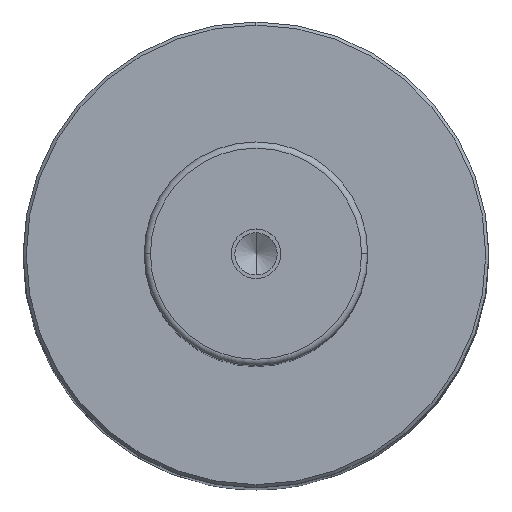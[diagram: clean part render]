
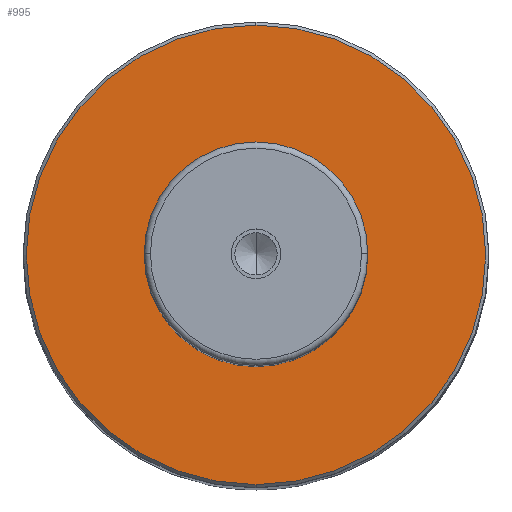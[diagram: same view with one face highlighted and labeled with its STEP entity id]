
A CAD part, top view. The second image highlights one B-rep face of the part: STEP entity #995.
In plain terms, the highlighted planar face has unit normal (0, 0, 1).
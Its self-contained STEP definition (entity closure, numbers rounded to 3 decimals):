
#367 = VERTEX_POINT( '', #1029 );
#541 = VERTEX_POINT( '', #1227 );
#631 = EDGE_CURVE( '', #719, #541, #1330, .T. );
#665 = EDGE_CURVE( '', #541, #719, #1367, .T. );
#699 = EDGE_CURVE( '', #367, #927, #1405, .T. );
#719 = VERTEX_POINT( '', #1427 );
#889 = EDGE_CURVE( '', #927, #367, #1616, .T. );
#927 = VERTEX_POINT( '', #1657 );
#995 = ADVANCED_FACE( '', ( #1731, #1732 ), #1733, .T. );
#1029 = CARTESIAN_POINT( '', ( 0., -37., 207. ) );
#1227 = CARTESIAN_POINT( '', ( 0., -18., 207. ) );
#1330 = CIRCLE( '', #2262, 18. );
#1367 = CIRCLE( '', #2309, 18. );
#1405 = CIRCLE( '', #2355, 37. );
#1427 = CARTESIAN_POINT( '', ( 0., 18., 207. ) );
#1616 = CIRCLE( '', #2670, 37. );
#1657 = CARTESIAN_POINT( '', ( 0., 37., 207. ) );
#1731 = FACE_BOUND( '', #2822, .T. );
#1732 = FACE_OUTER_BOUND( '', #2823, .T. );
#1733 = PLANE( '', #2824 );
#2262 = AXIS2_PLACEMENT_3D( '', #3232, #3233, #3234 );
#2309 = AXIS2_PLACEMENT_3D( '', #3281, #3282, #3283 );
#2355 = AXIS2_PLACEMENT_3D( '', #3322, #3323, #3324 );
#2670 = AXIS2_PLACEMENT_3D( '', #3568, #3569, #3570 );
#2822 = EDGE_LOOP( '', ( #3702, #3703 ) );
#2823 = EDGE_LOOP( '', ( #3704, #3705 ) );
#2824 = AXIS2_PLACEMENT_3D( '', #3706, #3707, #3708 );
#3232 = CARTESIAN_POINT( '', ( 0., 0., 207. ) );
#3233 = DIRECTION( '', ( 0., 0., 1. ) );
#3234 = DIRECTION( '', ( 0., 1., 0. ) );
#3281 = CARTESIAN_POINT( '', ( 0., 0., 207. ) );
#3282 = DIRECTION( '', ( 0., 0., 1. ) );
#3283 = DIRECTION( '', ( 0., 1., 0. ) );
#3322 = CARTESIAN_POINT( '', ( 0., 0., 207. ) );
#3323 = DIRECTION( '', ( 0., 0., 1. ) );
#3324 = DIRECTION( '', ( 0., 1., 0. ) );
#3568 = CARTESIAN_POINT( '', ( 0., 0., 207. ) );
#3569 = DIRECTION( '', ( 0., 0., 1. ) );
#3570 = DIRECTION( '', ( 0., 1., 0. ) );
#3702 = ORIENTED_EDGE( '', *, *, #631, .F. );
#3703 = ORIENTED_EDGE( '', *, *, #665, .F. );
#3704 = ORIENTED_EDGE( '', *, *, #889, .T. );
#3705 = ORIENTED_EDGE( '', *, *, #699, .T. );
#3706 = CARTESIAN_POINT( '', ( 0., 27.5, 207. ) );
#3707 = DIRECTION( '', ( 0., 0., 1. ) );
#3708 = DIRECTION( '', ( 0., 1., 0. ) );
